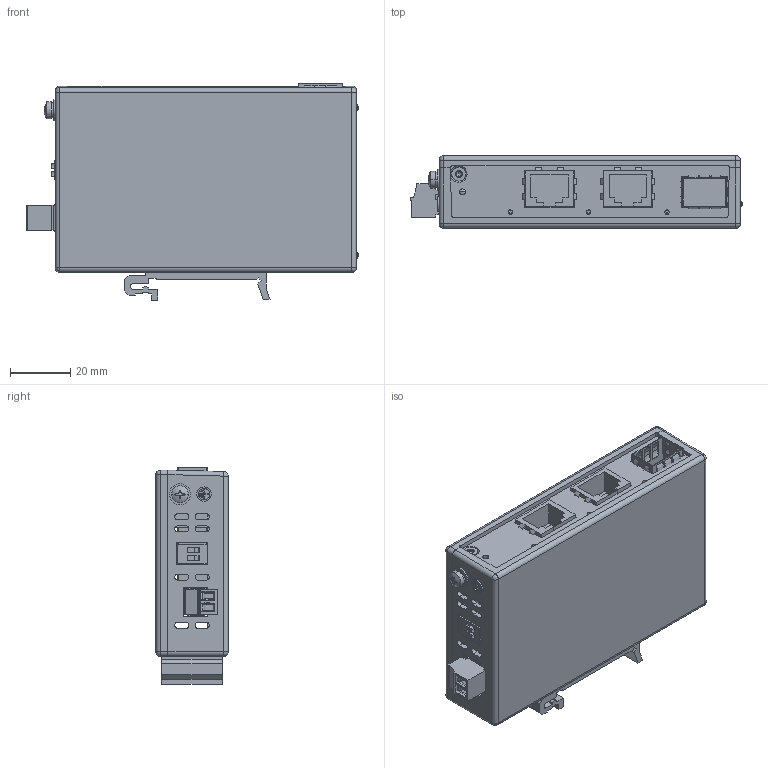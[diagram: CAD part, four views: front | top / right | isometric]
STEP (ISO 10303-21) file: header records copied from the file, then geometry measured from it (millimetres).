
FILE_DESCRIPTION((''),'2;1');
FILE_NAME('MATCHBOX_2GE1GX_ASM','2021-11-08T',('simon'),(''),'PRO/ENGINEER BY PARAMETRIC TECHNOLOGY CORPORATION, 2017170','PRO/ENGINEER BY PARAMETRIC TECHNOLOGY CORPORATION, 2017170','');
FILE_SCHEMA(('CONFIG_CONTROL_DESIGN'));
Products named in the file (28): MATCHBOX_MB_PCB; MC_1_5-LH_STIFT_1_1_1_1; BCH_381H_HOUSING_1; BCH_381H_ASM; PXC_5431181_02_BCH-381H-2-GY_3D_ASM; 5452235-BCP-508-2-71990; 5452235-BCP-508-2-73950_ASM; PXC_5434926_00_BCP-381-2-GY_3D_ASM; 1-LED; WGSOC-CNN0295; DPL-02-V; PRT-LED-0006; ZW2608-13S006F; MATCHBOX_MB_2-1_ASM; MATCHBOX_ME_BOTTOM_5; MATCHBOX_BOTTOM_ASM; MATCHBOX_ME_TOP_5; MATCHBOX_TOP_5_ASM; BN_4851_3645857_M3X4; KAI_GUI_20MM; CROSS_RECESSED_PAN_HEAD_SCREWS_; SPRING_LOCK_WASHERS--NORMAL_TYP; PLAIN_WASHERS--PRODUCT_GRADE_C_; PSW_M3X6_ASM; BN_M2X4; MATCHBOX_ME_24_ASM; MATCHBOX_FRONT_2-1SFP; MATCHBOX_2GE1GX_ASM
Assembly tree (35 placements, depth 5):
  MATCHBOX_2GE1GX_ASM
    MATCHBOX_MB_2-1_ASM
      MATCHBOX_MB_PCB
      PXC_5431181_02_BCH-381H-2-GY_3D_ASM
        BCH_381H_ASM
          MC_1_5-LH_STIFT_1_1_1_1  x2
          BCH_381H_HOUSING_1
      PXC_5434926_00_BCP-381-2-GY_3D_ASM
        5452235-BCP-508-2-73950_ASM
          5452235-BCP-508-2-71990
      1-LED
      WGSOC-CNN0295
      DPL-02-V
      PRT-LED-0006  x3
      ZW2608-13S006F  x2
    MATCHBOX_ME_24_ASM
      MATCHBOX_BOTTOM_ASM
        MATCHBOX_ME_BOTTOM_5
      MATCHBOX_TOP_5_ASM
        MATCHBOX_ME_TOP_5
      BN_4851_3645857_M3X4  x5
      KAI_GUI_20MM
      PSW_M3X6_ASM
        CROSS_RECESSED_PAN_HEAD_SCREWS_
        SPRING_LOCK_WASHERS--NORMAL_TYP
        PLAIN_WASHERS--PRODUCT_GRADE_C_
      BN_M2X4
    MATCHBOX_FRONT_2-1SFP
Bounding box: 110.2 x 24 x 71.9 mm (x, y, z)
Volume: 51713.6 mm3; surface area: 65337.1 mm2
Topology: 47 solids, 47 shells, 2276 faces, 6014 edges, 3888 vertices
Faces by surface type: plane 1368, cylinder 641, cone 113, bspline 79, torus 47, sphere 24, extrusion 4
Entity records: 66890 total; most frequent: CARTESIAN_POINT 16790, ORIENTED_EDGE 10518, DIRECTION 10003, EDGE_CURVE 5259, VECTOR 3577, LINE 3573, VERTEX_POINT 3404, AXIS2_PLACEMENT_3D 3213
